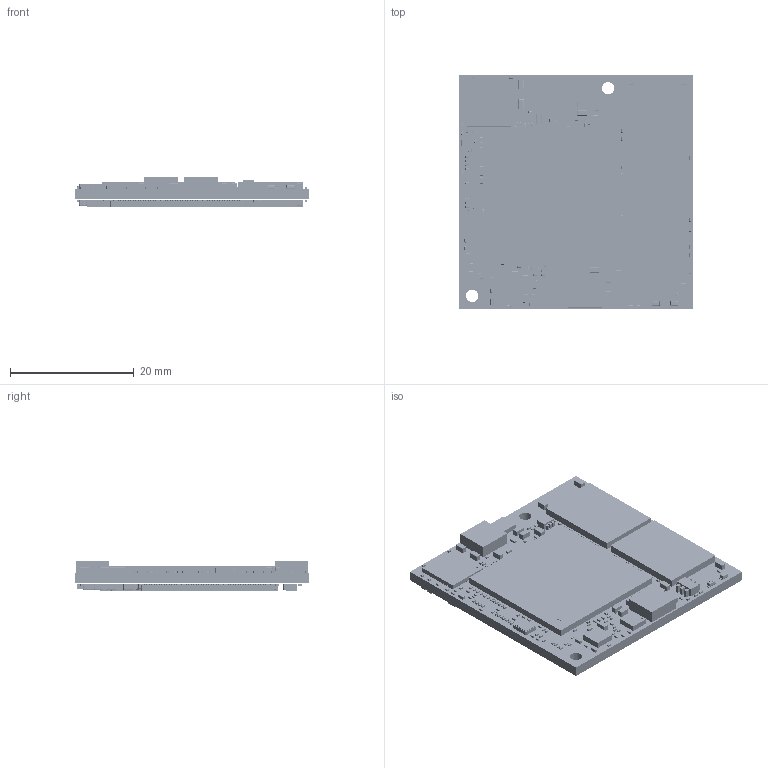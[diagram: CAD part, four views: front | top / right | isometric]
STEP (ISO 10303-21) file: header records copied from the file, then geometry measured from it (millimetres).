
FILE_DESCRIPTION(('Open CASCADE Model'),'2;1');
FILE_NAME('Open CASCADE Shape Model','2016-03-07T10:16:11',('Author'),( 'Open CASCADE'),'Open CASCADE STEP processor 6.5','Open CASCADE 6.5' ,'Unknown');
FILE_SCHEMA(('AUTOMOTIVE_DESIGN { 1 0 10303 214 1 1 1 1 }'));
Length unit declared in the file: millimetre
Products named in the file (476): PCB; Board; C50; C0201; R177; R0201; R176; R175; R174; R173; R179; R0402; C142; C88; U10; 447900944; Extruded; R98; R101; R99; R75; C138; U11; 447900304; C240; C0603; C239; C241; R110; U5; 447901584; U13; QFN-16; U12; U4; Q3; 602311072; 602311328; D1; SOD323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
Assembly tree (947 placements, depth 4):
  PCB
    Board
    C50
      C0201
    R177
      R0201
    R176
      R0201
    R175
      R0201
    R174
      R0201
    R173
      R0201
    R179
      R0402
    C142
      C0201
    C88
      C0201
    U10
      447900944
        Extruded
    R98
      R0201
    R101
      R0201
    R99
      R0201
    R75
      R0201
    C138
      C0201
    U11
      447900304
        Extruded
    C240
      C0603  x2
    C239
      C0603  x2
    C241
      C0201
    R110
      R0201
    U5
      447901584
        Extruded
    U13
      QFN-16
    U12
      QFN-16
    U4
      447901584
        Extruded
    Q3
      602311072
        Extruded
      602311328  x3
        Extruded
    D1
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Bounding box: 38 x 38 x 4.94 mm (x, y, z)
Volume: 4043 mm3; surface area: 8149.5 mm2
Topology: 506 solids, 509 shells, 25331 faces, 61315 edges, 33848 vertices
Faces by surface type: plane 10489, cylinder 9651, sphere 4826, bspline 337, cone 24, torus 4
Full cylindrical faces by diameter (mm): 2 x2
Entity records: 400719 total; most frequent: CARTESIAN_POINT 151139, DIRECTION 38994, ORIENTED_EDGE 24708, PCURVE 24708, DEFINITIONAL_REPRESENTATION 24708, LINE 18991, VECTOR 18991, EDGE_CURVE 12355
